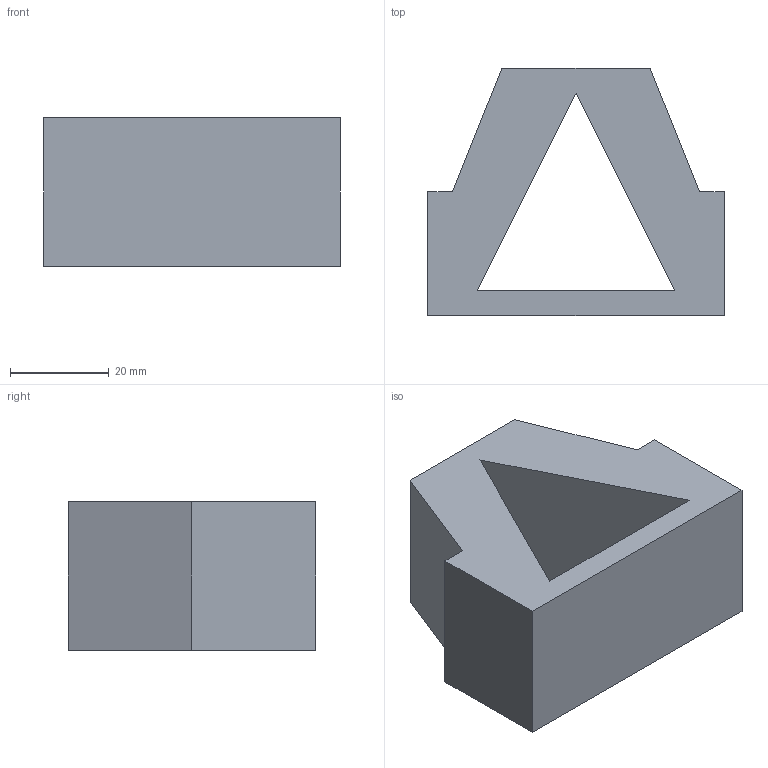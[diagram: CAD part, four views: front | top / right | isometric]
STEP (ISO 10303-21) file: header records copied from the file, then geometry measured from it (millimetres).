
FILE_DESCRIPTION(/* description */ (''),/* implementation_level */ '2;1');
FILE_NAME(/* name */ 'E:\OneDrive\Desktop\N5_GC_Orthographic\3D CAD Models\Task_4.stp',/* time_stamp */ '2020-06-09T13:32:01+01:00',/* author */ ('hunte'),/* organization */ (''),/* preprocessor_version */ 'ST-DEVELOPER v18.1',/* originating_system */ 'Autodesk Inventor 2020',/* authorisation */ '');
FILE_SCHEMA (('AUTOMOTIVE_DESIGN { 1 0 10303 214 3 1 1 }'));
Length unit declared in the file: millimetre
Products named in the file (1): Task_4
Bounding box: 60 x 50 x 30 mm (x, y, z)
Volume: 51000 mm3; surface area: 13398.8 mm2
Topology: 1 solids, 1 shells, 13 faces, 33 edges, 22 vertices
Faces by surface type: plane 13
Entity records: 432 total; most frequent: CARTESIAN_POINT 69, ORIENTED_EDGE 66, DIRECTION 61, LINE 33, VECTOR 33, EDGE_CURVE 33, VERTEX_POINT 22, EDGE_LOOP 15
